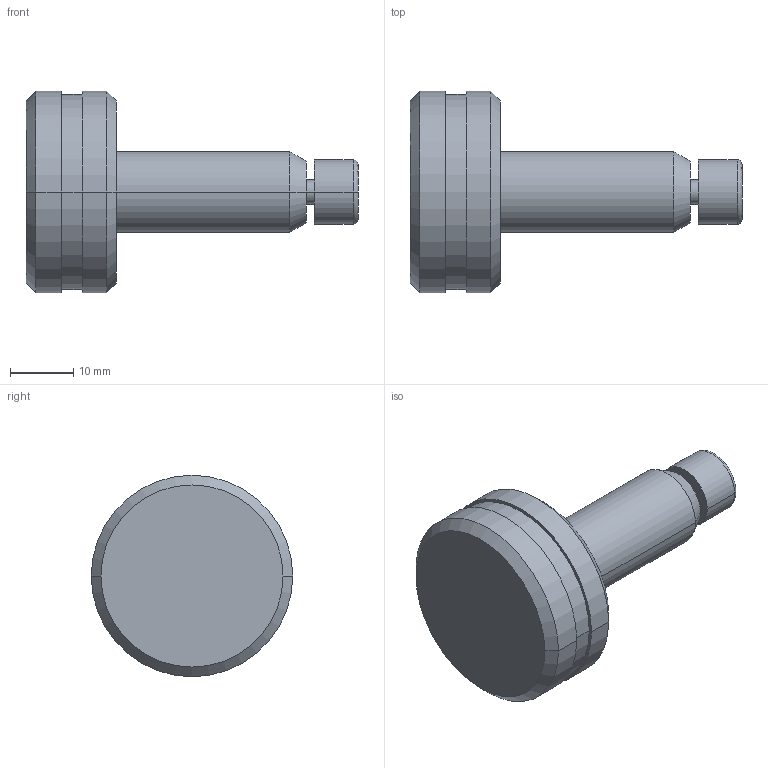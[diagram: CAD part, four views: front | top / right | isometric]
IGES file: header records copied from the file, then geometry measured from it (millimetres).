
Start section:  PTC IGES file: sch346-part.igs
Global section: file name: sch346-part.igs; native system: Pro/ENGINEER by Parametric Technology Corporation; preprocessor: 2002350; author: chant; organization: Unknown; date: 070529.164406; units: inch
Bounding box: 52.32 x 31.75 x 31.75 mm (x, y, z)
Surface area: 4580.1 mm2 (no closed solid volume)
Topology: 0 solids, 0 shells, 33 faces, 172 edges, 194 vertices
Faces by surface type: revolution 26, bspline 7
